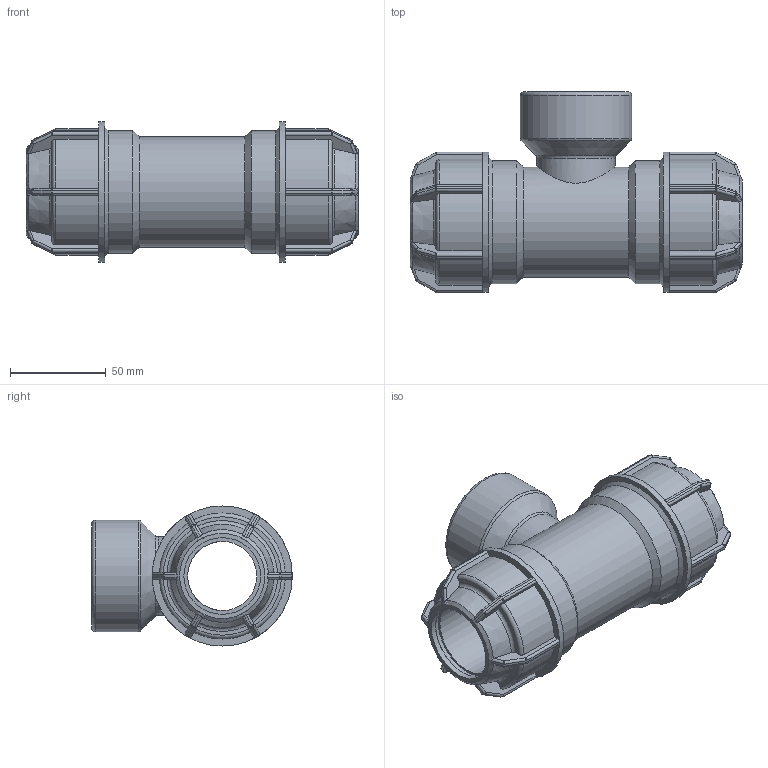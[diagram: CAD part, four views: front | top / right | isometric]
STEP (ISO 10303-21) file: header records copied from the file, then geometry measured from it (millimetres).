
FILE_DESCRIPTION(/* description */ ('PLASSON L.14 TEE FEMALE ADAPTOR (SILVER) 40 x 1.1/2" x 40'),/* implementation_level */ '2;1');
FILE_NAME(/* name */ 'C:\Dropbox\KIMPROJECTS-Inventor\99-16-3568-Processing\Silver Fittings\141400\141400040015.ipt.stp',/* time_stamp */ '2018-04-16T11:15:55+03:00',/* author */ ('KIM'),/* organization */ (''),/* preprocessor_version */ 'ST-DEVELOPER v15.6',/* originating_system */ 'Autodesk Inventor 2015',/* authorisation */ '');
FILE_SCHEMA (('AUTOMOTIVE_DESIGN { 1 0 10303 214 3 1 1 }'));
Length unit declared in the file: millimetre
Products named in the file (1): 141400040015
Bounding box: 173 x 104.5 x 73 mm (x, y, z)
Volume: 330886.3 mm3; surface area: 78443.6 mm2
Topology: 1 solids, 1 shells, 413 faces, 980 edges, 563 vertices
Faces by surface type: plane 193, cylinder 122, sphere 48, torus 31, cone 19
Full cylindrical faces by diameter (mm): 36 x2, 40 x4, 40.809 x1, 44.845 x1, 57.6 x1, 58.298 x1, 64 x2, 73 x2
Entity records: 11976 total; most frequent: CARTESIAN_POINT 3070, DIRECTION 1876, ORIENTED_EDGE 1824, EDGE_CURVE 912, AXIS2_PLACEMENT_3D 758, VERTEX_POINT 540, EDGE_LOOP 450, FACE_OUTER_BOUND 410
